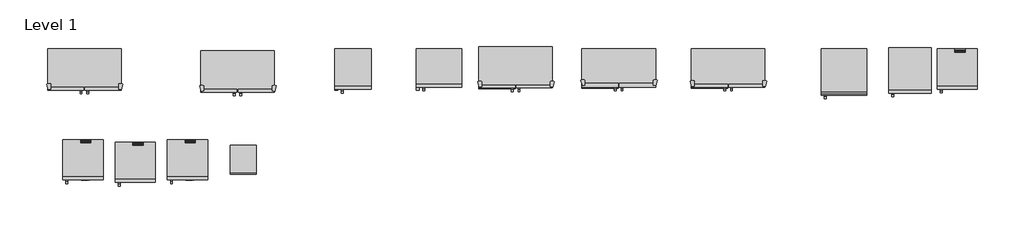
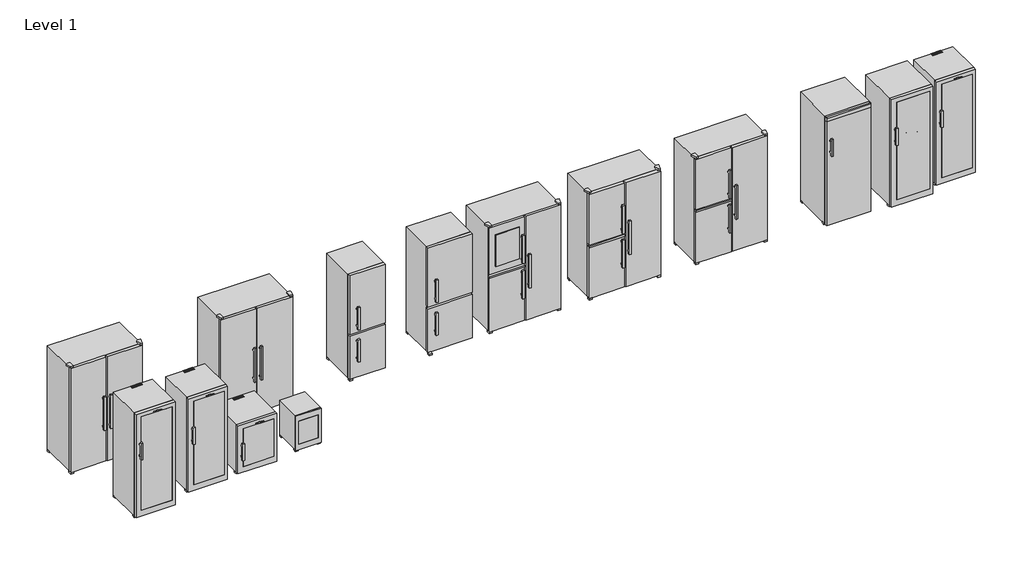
# One storey: 14 proxies.
"""IFC4 building model written with IfcOpenShell, lengths in millimetres."""

from ifc_helpers import new_model, si_unit, origin, place, context, project, spatial, transform, mapped, element, save
from components import specialty_equipment_39511ddc, specialty_equipment_d243509d, specialty_equipment_5408e7d3, specialty_equipment_ab0ed46c, specialty_equipment_bd1fe556, specialty_equipment_3c9227b6, specialty_equipment_b5ad8041, specialty_equipment_a9a47bf1, specialty_equipment_4a262d58, specialty_equipment_dc7cb6ab, specialty_equipment_9dc1592e, specialty_equipment_0063b3d1, specialty_equipment_43d568f8, specialty_equipment_a312c650

model = new_model("IFC4")

# Units and contexts
model_context = context("Model", 3, world=origin())
ifc_project = project(units=[si_unit("LENGTHUNIT", "METRE", prefix="MILLI")], contexts=[model_context])

# Site, building, storey
site = spatial("IfcSite", under=ifc_project)
building = spatial("IfcBuilding", under=site)
storey = spatial("IfcBuildingStorey", under=building, Name="Level 1", Elevation=0.0)

# Proxies
placement = place(None, origin())
specialty_equipment_shape = specialty_equipment_39511ddc(model_context)
element("IfcBuildingElementProxy", 1, Name="CNef 4315, CNPef 4516 : CNef 4315", ObjectType="CNef 4315, CNPef 4516 : CNef 4315", at=placement, inside=storey, context=model_context, shape_type="MappedRepresentation", body=[
    mapped(specialty_equipment_shape, transform((4682.702638, 664.5560119, 0.0), x_axis=(1.0, 0.0, 0.0), y_axis=(0.0, 1.0, 0.0), z_axis=(0.0, 0.0, 1.0))),
])
specialty_equipment_2_shape = specialty_equipment_d243509d(model_context)
element("IfcBuildingElementProxy", 2, Name="CNef 4315, CNPef 4516 : CNPef 4516", ObjectType="CNef 4315, CNPef 4516 : CNPef 4516", at=placement, inside=storey, context=model_context, shape_type="MappedRepresentation", body=[
    mapped(specialty_equipment_2_shape, transform((6022.702638, 664.5560119, 0.0), x_axis=(1.0, 0.0, 0.0), y_axis=(0.0, 1.0, 0.0), z_axis=(0.0, 0.0, 1.0))),
])
specialty_equipment_3_shape = specialty_equipment_5408e7d3(model_context)
element("IfcBuildingElementProxy", 3, Name="SBSes 7252, SBef 7242 : SBSes 7252", ObjectType="SBSes 7252, SBef 7242 : SBSes 7252", at=placement, inside=storey, context=model_context, shape_type="MappedRepresentation", body=[
    mapped(specialty_equipment_3_shape, transform((-37.297362, 664.5560119, 0.0), x_axis=(1.0, 0.0, 0.0), y_axis=(0.0, 1.0, 0.0), z_axis=(0.0, 0.0, 1.0))),
])
specialty_equipment_4_shape = specialty_equipment_ab0ed46c(model_context)
element("IfcBuildingElementProxy", 4, Name="SBSes 7252, SBef 7242 : SBSef 7242", ObjectType="SBSes 7252, SBef 7242 : SBSef 7242", at=placement, inside=storey, context=model_context, shape_type="MappedRepresentation", body=[
    mapped(specialty_equipment_4_shape, transform((2482.702638, 634.7214813, 0.0), x_axis=(1.0, 0.0, 0.0), y_axis=(0.0, 1.0, 0.0), z_axis=(0.0, 0.0, 1.0))),
])
specialty_equipment_5_shape = specialty_equipment_bd1fe556(model_context)
element("IfcBuildingElementProxy", 5, Name="SBSbs 7353, SBSes 7353 : SBSbs 7353", ObjectType="SBSbs 7353, SBSes 7353 : SBSbs 7353", at=placement, inside=storey, context=model_context, shape_type="MappedRepresentation", body=[
    mapped(specialty_equipment_5_shape, transform((8750.8752505, 664.5560119, 0.0), x_axis=(1.0, 0.0, 0.0), y_axis=(0.0, 1.0, 0.0), z_axis=(0.0, 0.0, 1.0))),
])
specialty_equipment_6_shape = specialty_equipment_3c9227b6(model_context)
element("IfcBuildingElementProxy", 6, Name="SBSbs 7353, SBSes 7353 : SBSes 7353", ObjectType="SBSbs 7353, SBSes 7353 : SBSes 7353", at=placement, inside=storey, context=model_context, shape_type="MappedRepresentation", body=[
    mapped(specialty_equipment_6_shape, transform((10550.8752505, 664.5560119, 0.0), x_axis=(1.0, 0.0, 0.0), y_axis=(0.0, 1.0, 0.0), z_axis=(0.0, 0.0, 1.0))),
])
specialty_equipment_7_shape = specialty_equipment_b5ad8041(model_context)
element("IfcBuildingElementProxy", 7, Name="WKt 6451 : WKt 6451", ObjectType="WKt 6451 : WKt 6451", at=placement, inside=storey, context=model_context, shape_type="MappedRepresentation", body=[
    mapped(specialty_equipment_7_shape, transform((12685.781919, 664.5560119, -182.0), x_axis=(1.0, 0.0, 0.0), y_axis=(0.0, 1.0, 0.0), z_axis=(0.0, 0.0, 1.0))),
])
specialty_equipment_8_shape = specialty_equipment_a9a47bf1(model_context)
element("IfcBuildingElementProxy", 8, Name="WKb : WKb 4611", ObjectType="WKb : WKb 4611", at=placement, inside=storey, context=model_context, shape_type="MappedRepresentation", body=[
    mapped(specialty_equipment_8_shape, transform((215.7088759, -825.5850126, -261.0), x_axis=(1.0, 0.0, 0.0), y_axis=(0.0, 1.0, 0.0), z_axis=(0.0, 0.0, 1.0))),
])
specialty_equipment_9_shape = specialty_equipment_4a262d58(model_context)
element("IfcBuildingElementProxy", 9, Name="ZKes 453_136 : ZKes 453", ObjectType="ZKes 453_136 : ZKes 453", at=placement, inside=storey, context=model_context, shape_type="MappedRepresentation", body=[
    mapped(specialty_equipment_9_shape, transform((2969.5109483, -920.369614, -1313.0), x_axis=(1.0, 0.0, 0.0), y_axis=(0.0, 1.0, 0.0), z_axis=(0.0, 0.0, 1.0))),
])
specialty_equipment_10_shape = specialty_equipment_dc7cb6ab(model_context)
element("IfcBuildingElementProxy", 10, Name="Wkb 1712_049 : WKb 1712", ObjectType="Wkb 1712_049 : WKb 1712", at=placement, inside=storey, context=model_context, shape_type="MappedRepresentation", body=[
    mapped(specialty_equipment_10_shape, transform((1935.7088759, -825.5850126, -1075.0), x_axis=(1.0, 0.0, 0.0), y_axis=(0.0, 1.0, 0.0), z_axis=(0.0, 0.0, 1.0))),
])
specialty_equipment_11_shape = specialty_equipment_9dc1592e(model_context)
element("IfcBuildingElementProxy", 11, Name="Wkb 4112_049 : WKb 4112", ObjectType="Wkb 4112_049 : WKb 4112", at=placement, inside=storey, context=model_context, shape_type="MappedRepresentation", body=[
    mapped(specialty_equipment_11_shape, transform((1075.7088759, -865.5850126, -261.0), x_axis=(1.0, 0.0, 0.0), y_axis=(0.0, 1.0, 0.0), z_axis=(0.0, 0.0, 1.0))),
])
specialty_equipment_12_shape = specialty_equipment_0063b3d1(model_context)
element("IfcBuildingElementProxy", 12, Name="Wkb 4612_049 : WKb 4612", ObjectType="Wkb 4612_049 : WKb 4612", at=placement, inside=storey, context=model_context, shape_type="MappedRepresentation", body=[
    mapped(specialty_equipment_12_shape, transform((14594.9217569, 664.5560119, -261.0), x_axis=(1.0, 0.0, 0.0), y_axis=(0.0, 1.0, 0.0), z_axis=(0.0, 0.0, 1.0))),
])
specialty_equipment_13_shape = specialty_equipment_43d568f8(model_context)
element("IfcBuildingElementProxy", 13, Name="SBSes 7165_049 : SBSes 7165", ObjectType="SBSes 7165_049 : SBSes 7165", at=placement, inside=storey, context=model_context, shape_type="MappedRepresentation", body=[
    mapped(specialty_equipment_13_shape, transform((7055.8752505, 704.5560119, 0.0), x_axis=(1.0, 0.0, 0.0), y_axis=(0.0, 1.0, 0.0), z_axis=(0.0, 0.0, 1.0))),
])
specialty_equipment_14_shape = specialty_equipment_a312c650(model_context)
element("IfcBuildingElementProxy", 14, Name="WTes 5972_136 : WTes 5972", ObjectType="WTes 5972_136 : WTes 5972", at=placement, inside=storey, context=model_context, shape_type="MappedRepresentation", body=[
    mapped(specialty_equipment_14_shape, transform((13798.557625, 681.1243108, -261.0), x_axis=(1.0, 0.0, 0.0), y_axis=(0.0, 1.0, 0.0), z_axis=(0.0, 0.0, 1.0))),
])

save(model, "model.ifc")
